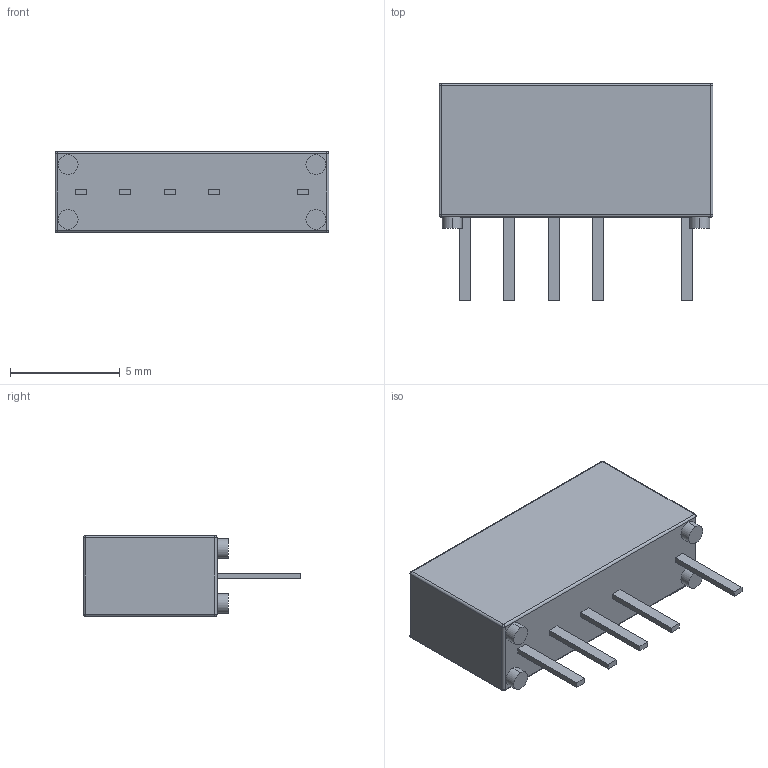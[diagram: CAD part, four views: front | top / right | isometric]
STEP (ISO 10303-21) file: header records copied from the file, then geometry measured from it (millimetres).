
FILE_DESCRIPTION (( 'STEP AP214' ), '1' );
FILE_NAME ('113-1-C.STEP', '2010-11-26T11:49:57', ( ' ' ), ( '' ), 'SwSTEP 2.0', 'SolidWorks 2009', '' );
FILE_SCHEMA (( 'AUTOMOTIVE_DESIGN' ));
Length unit declared in the file: millimetre
Products named in the file (1): 113-1-C
Bounding box: 12.5 x 9.9 x 3.7 mm (x, y, z)
Volume: 285.3 mm3; surface area: 320.8 mm2
Topology: 1 solids, 1 shells, 282 faces, 725 edges, 470 vertices
Faces by surface type: plane 200, bspline 52, cylinder 22, sphere 8
Entity records: 16277 total; most frequent: CARTESIAN_POINT 6642, ORIENTED_EDGE 1434, DIRECTION 1119, EDGE_CURVE 717, VECTOR 569, LINE 569, VERTEX_POINT 470, EDGE_LOOP 315
